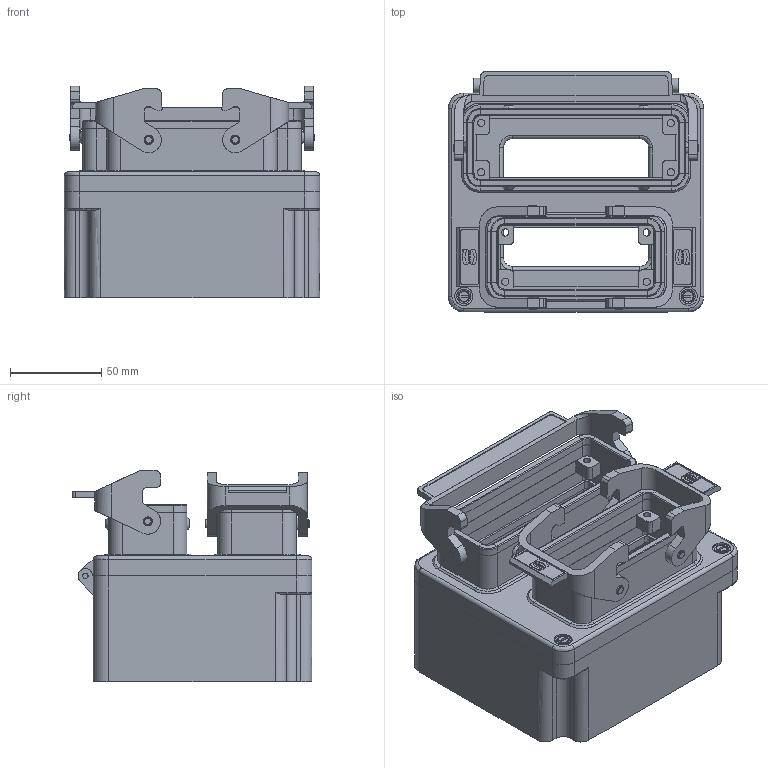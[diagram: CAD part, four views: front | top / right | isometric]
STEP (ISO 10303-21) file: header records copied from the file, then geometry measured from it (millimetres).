
FILE_DESCRIPTION( ( 'STEP AP214' ), '1' );
FILE_NAME( 'C:/Dokumente und Einstellungen/Administrator/Desktop/47 Kabelboxen/G3/20/gr_3_24e_16e-ba.stp', '2006-09-10T19:22:30', ( ' ' ), ( ' ' ), 'XStep 1.0', 'VISICAD', ' ' );
FILE_SCHEMA( ( 'automotive_design' ) );
Length unit declared in the file: millimetre
Products named in the file (1452): 1; 2; 3; 4; 5; 6; 7; 8; 9; 10; 11; 12; 13; 14; 15; 16; 17; 18; 19; 20; 21; 22; 23; 24; 25; 26; 27; 28; 29; 30; 31; 32; 33; 34; 35; 36; 37; 38; 39; 40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
Bounding box: 140 x 131.5 x 115.9 mm (x, y, z)
Surface area: 188522.3 mm2 (no closed solid volume)
Topology: 0 solids, 1462 shells, 1462 faces, 7287 edges, 7279 vertices
Faces by surface type: plane 806, bspline 458, cylinder 108, revolution 90
Full cylindrical faces by diameter (mm): 0.76 x2, 0.84 x2, 5.1 x4
Entity records: 153728 total; most frequent: CARTESIAN_POINT 67100, DIRECTION 10315, ORIENTED_EDGE 7279, EDGE_CURVE 7279, VERTEX_POINT 7279, LINE 4617, VECTOR 4617, AXIS2_PLACEMENT_3D 2804
